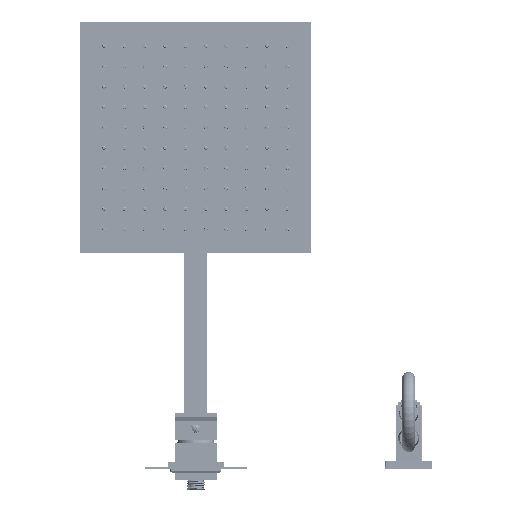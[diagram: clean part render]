
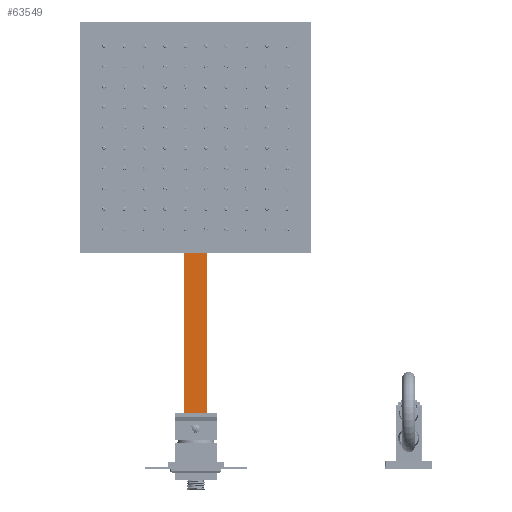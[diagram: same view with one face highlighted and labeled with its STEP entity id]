
A CAD part, front view. The second image highlights one B-rep face of the part: STEP entity #63549.
In plain terms, the highlighted planar face has unit normal (0, -1, 0).
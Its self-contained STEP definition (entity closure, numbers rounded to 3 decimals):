
#5440=PLANE('',#67718);
#6518=FACE_OUTER_BOUND('',#10386,.T.);
#10386=EDGE_LOOP('',(#42907,#42908,#42909,#42910));
#18067=LINE('',#118160,#21530);
#18072=LINE('',#118169,#21535);
#18077=LINE('',#118180,#21540);
#18078=LINE('',#118181,#21541);
#21530=VECTOR('',#78992,345.);
#21535=VECTOR('',#78999,25.);
#21540=VECTOR('',#79006,345.);
#21541=VECTOR('',#79007,25.);
#25325=VERTEX_POINT('',#118156);
#25327=VERTEX_POINT('',#118159);
#25330=VERTEX_POINT('',#118167);
#25335=VERTEX_POINT('',#118179);
#31230=EDGE_CURVE('',#25325,#25327,#18067,.T.);
#31235=EDGE_CURVE('',#25325,#25330,#18072,.T.);
#31240=EDGE_CURVE('',#25330,#25335,#18077,.T.);
#31241=EDGE_CURVE('',#25327,#25335,#18078,.T.);
#42907=ORIENTED_EDGE('',*,*,#31235,.T.);
#42908=ORIENTED_EDGE('',*,*,#31240,.T.);
#42909=ORIENTED_EDGE('',*,*,#31241,.F.);
#42910=ORIENTED_EDGE('',*,*,#31230,.F.);
#63549=ADVANCED_FACE('',(#6518),#5440,.T.);
#67718=AXIS2_PLACEMENT_3D('',#118178,#79004,#79005);
#78992=DIRECTION('',(0.,0.,-1.));
#78999=DIRECTION('',(-1.,0.,0.));
#79004=DIRECTION('center_axis',(0.,-1.,0.));
#79005=DIRECTION('ref_axis',(-1.,0.,0.));
#79006=DIRECTION('',(0.,0.,-1.));
#79007=DIRECTION('',(-1.,0.,0.));
#118156=CARTESIAN_POINT('',(393.25,17.75,338.));
#118159=CARTESIAN_POINT('',(393.25,17.75,-7.));
#118160=CARTESIAN_POINT('',(393.25,17.75,338.));
#118167=CARTESIAN_POINT('',(368.25,17.75,338.));
#118169=CARTESIAN_POINT('',(393.25,17.75,338.));
#118178=CARTESIAN_POINT('Origin',(393.25,17.75,350.5));
#118179=CARTESIAN_POINT('',(368.25,17.75,-7.));
#118180=CARTESIAN_POINT('',(368.25,17.75,338.));
#118181=CARTESIAN_POINT('',(393.25,17.75,-7.));
